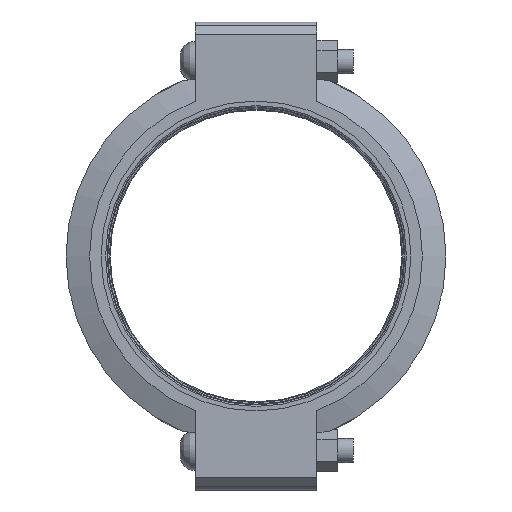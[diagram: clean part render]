
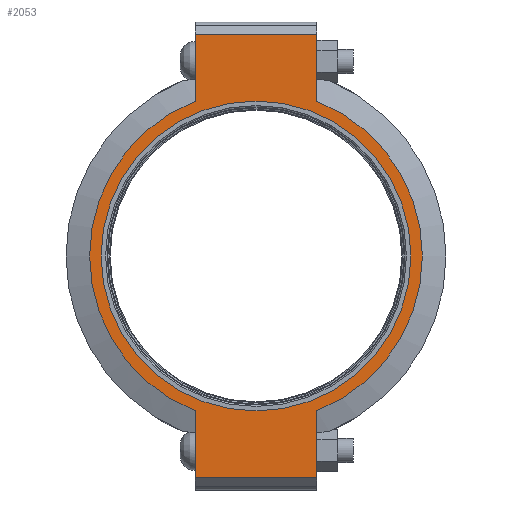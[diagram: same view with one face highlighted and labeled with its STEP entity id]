
A CAD part, left-side view. The second image highlights one B-rep face of the part: STEP entity #2053.
In plain terms, the highlighted planar face has unit normal (-1, 0, 0) as drawn and (0, 0, 1) by its records, which use the part's own axes.
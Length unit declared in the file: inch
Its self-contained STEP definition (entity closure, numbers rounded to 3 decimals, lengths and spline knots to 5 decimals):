
#162=LINE('',#3612,#255);
#173=LINE('',#3663,#266);
#179=LINE('',#3689,#272);
#181=LINE('',#3692,#274);
#182=LINE('',#3697,#275);
#183=LINE('',#3698,#276);
#255=VECTOR('',#2943,0.3937);
#266=VECTOR('',#2974,0.3937);
#272=VECTOR('',#2992,0.3937);
#274=VECTOR('',#2996,0.3937);
#275=VECTOR('',#3001,0.3937);
#276=VECTOR('',#3002,0.3937);
#339=FACE_BOUND('',#592,.T.);
#382=PLANE('',#2399);
#469=FACE_OUTER_BOUND('',#591,.T.);
#591=EDGE_LOOP('',(#1726,#1727,#1728,#1729,#1730,#1731,#1732,#1733));
#592=EDGE_LOOP('',(#1734));
#776=CIRCLE('',#2400,6.84375);
#777=CIRCLE('',#2401,6.84375);
#778=CIRCLE('',#2402,6.375);
#948=VERTEX_POINT('',#3609);
#949=VERTEX_POINT('',#3611);
#966=VERTEX_POINT('',#3658);
#967=VERTEX_POINT('',#3662);
#974=VERTEX_POINT('',#3684);
#975=VERTEX_POINT('',#3688);
#976=VERTEX_POINT('',#3694);
#977=VERTEX_POINT('',#3696);
#978=VERTEX_POINT('',#3700);
#1203=EDGE_CURVE('',#949,#948,#162,.T.);
#1224=EDGE_CURVE('',#967,#966,#173,.T.);
#1235=EDGE_CURVE('',#975,#974,#179,.T.);
#1237=EDGE_CURVE('',#975,#948,#181,.T.);
#1238=EDGE_CURVE('',#974,#976,#776,.T.);
#1239=EDGE_CURVE('',#976,#977,#182,.T.);
#1240=EDGE_CURVE('',#967,#977,#183,.T.);
#1241=EDGE_CURVE('',#966,#949,#777,.T.);
#1242=EDGE_CURVE('',#978,#978,#778,.T.);
#1726=ORIENTED_EDGE('',*,*,#1237,.F.);
#1727=ORIENTED_EDGE('',*,*,#1235,.T.);
#1728=ORIENTED_EDGE('',*,*,#1238,.T.);
#1729=ORIENTED_EDGE('',*,*,#1239,.T.);
#1730=ORIENTED_EDGE('',*,*,#1240,.F.);
#1731=ORIENTED_EDGE('',*,*,#1224,.T.);
#1732=ORIENTED_EDGE('',*,*,#1241,.T.);
#1733=ORIENTED_EDGE('',*,*,#1203,.T.);
#1734=ORIENTED_EDGE('',*,*,#1242,.T.);
#2053=ADVANCED_FACE('',(#469,#339),#382,.T.);
#2399=AXIS2_PLACEMENT_3D('',#3693,#2997,#2998);
#2400=AXIS2_PLACEMENT_3D('',#3695,#2999,#3000);
#2401=AXIS2_PLACEMENT_3D('',#3699,#3003,#3004);
#2402=AXIS2_PLACEMENT_3D('',#3701,#3005,#3006);
#2943=DIRECTION('',(1.,0.,0.));
#2974=DIRECTION('',(1.,0.,0.));
#2992=DIRECTION('',(-1.,0.,0.));
#2996=DIRECTION('',(0.,-1.,0.));
#2997=DIRECTION('center_axis',(0.,0.,1.));
#2998=DIRECTION('ref_axis',(-1.,0.,0.));
#2999=DIRECTION('center_axis',(0.,0.,1.));
#3000=DIRECTION('ref_axis',(1.,0.,0.));
#3001=DIRECTION('',(-1.,0.,0.));
#3002=DIRECTION('',(0.,1.,0.));
#3003=DIRECTION('center_axis',(0.,0.,1.));
#3004=DIRECTION('ref_axis',(1.,0.,0.));
#3005=DIRECTION('center_axis',(0.,0.,-1.));
#3006=DIRECTION('ref_axis',(1.,0.,0.));
#3609=CARTESIAN_POINT('',(9.125,-2.5,1.315));
#3611=CARTESIAN_POINT('',(6.37079,-2.5,1.315));
#3612=CARTESIAN_POINT('',(-9.625,-2.5,1.315));
#3658=CARTESIAN_POINT('',(-6.37079,-2.5,1.315));
#3662=CARTESIAN_POINT('',(-9.125,-2.5,1.315));
#3663=CARTESIAN_POINT('',(-9.625,-2.5,1.315));
#3684=CARTESIAN_POINT('',(6.37079,2.5,1.315));
#3688=CARTESIAN_POINT('',(9.125,2.5,1.315));
#3689=CARTESIAN_POINT('',(9.625,2.5,1.315));
#3692=CARTESIAN_POINT('',(9.125,-1.25,1.315));
#3693=CARTESIAN_POINT('Origin',(0.,0.,
1.315));
#3694=CARTESIAN_POINT('',(-6.37079,2.5,1.315));
#3695=CARTESIAN_POINT('Origin',(0.,0.,1.315));
#3696=CARTESIAN_POINT('',(-9.125,2.5,1.315));
#3697=CARTESIAN_POINT('',(9.625,2.5,1.315));
#3698=CARTESIAN_POINT('',(-9.125,1.25,1.315));
#3699=CARTESIAN_POINT('Origin',(0.,0.,1.315));
#3700=CARTESIAN_POINT('',(-6.375,0.,1.315));
#3701=CARTESIAN_POINT('Origin',(0.,0.,1.315));
